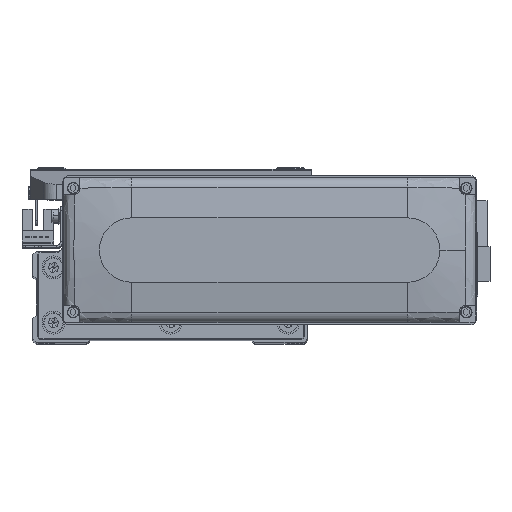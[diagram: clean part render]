
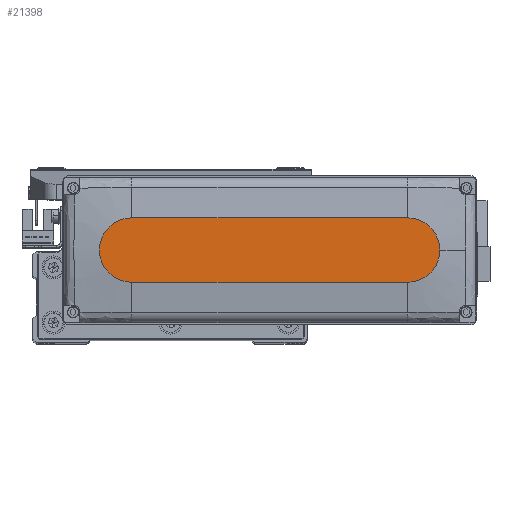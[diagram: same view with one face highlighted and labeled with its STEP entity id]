
A CAD part, top view. The second image highlights one B-rep face of the part: STEP entity #21398.
In plain terms, the highlighted planar face has unit normal (0, 0, 1).
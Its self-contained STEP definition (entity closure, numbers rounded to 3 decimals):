
#1620 = VECTOR ( 'NONE', #42670, 1000. ) ;
#1753 = ORIENTED_EDGE ( 'NONE', *, *, #46228, .T. ) ;
#1819 = CIRCLE ( 'NONE', #35370, 14. ) ;
#2004 = CARTESIAN_POINT ( 'NONE',  ( 74., 0., 28.5 ) ) ;
#2275 = EDGE_CURVE ( 'NONE', #24312, #2949, #1819, .T. ) ;
#2402 = VERTEX_POINT ( 'NONE', #18115 ) ;
#2949 = VERTEX_POINT ( 'NONE', #2004 ) ;
#5715 = CARTESIAN_POINT ( 'NONE',  ( 60., -14., 28.5 ) ) ;
#8342 = CIRCLE ( 'NONE', #36986, 14. ) ;
#10628 = CARTESIAN_POINT ( 'NONE',  ( -60., -14., 28.5 ) ) ;
#10875 = DIRECTION ( 'NONE',  ( 1., 0., 0. ) ) ;
#11189 = ORIENTED_EDGE ( 'NONE', *, *, #35209, .T. ) ;
#16842 = CARTESIAN_POINT ( 'NONE',  ( 60., 0., 28.5 ) ) ;
#17135 = ORIENTED_EDGE ( 'NONE', *, *, #18884, .T. ) ;
#17721 = VECTOR ( 'NONE', #10875, 1000. ) ;
#17875 = EDGE_CURVE ( 'NONE', #46809, #24312, #26786, .T. ) ;
#18115 = CARTESIAN_POINT ( 'NONE',  ( -60., 14., 28.5 ) ) ;
#18884 = EDGE_CURVE ( 'NONE', #2949, #26890, #49402, .T. ) ;
#21398 = ADVANCED_FACE ( 'NONE', ( #34456 ), #43157, .T. ) ;
#23432 = DIRECTION ( 'NONE',  ( 0., 0., 1. ) ) ;
#23685 = CARTESIAN_POINT ( 'NONE',  ( 0., 0., 28.5 ) ) ;
#24122 = CARTESIAN_POINT ( 'NONE',  ( -60., 14., 28.5 ) ) ;
#24312 = VERTEX_POINT ( 'NONE', #5715 ) ;
#25348 = EDGE_LOOP ( 'NONE', ( #11189, #1753, #36849, #36744, #17135 ) ) ;
#26299 = DIRECTION ( 'NONE',  ( 0., 0., 1. ) ) ;
#26786 = LINE ( 'NONE', #10628, #17721 ) ;
#26890 = VERTEX_POINT ( 'NONE', #38287 ) ;
#32081 = LINE ( 'NONE', #24122, #1620 ) ;
#32977 = DIRECTION ( 'NONE',  ( 0., 0., 1. ) ) ;
#33962 = DIRECTION ( 'NONE',  ( 1., 0., 0. ) ) ;
#34456 = FACE_OUTER_BOUND ( 'NONE', #25348, .T. ) ;
#35103 = AXIS2_PLACEMENT_3D ( 'NONE', #23685, #23432, #39314 ) ;
#35209 = EDGE_CURVE ( 'NONE', #26890, #2402, #32081, .T. ) ;
#35370 = AXIS2_PLACEMENT_3D ( 'NONE', #16842, #32977, #48602 ) ;
#36744 = ORIENTED_EDGE ( 'NONE', *, *, #2275, .T. ) ;
#36849 = ORIENTED_EDGE ( 'NONE', *, *, #17875, .T. ) ;
#36986 = AXIS2_PLACEMENT_3D ( 'NONE', #42165, #26299, #33962 ) ;
#37141 = DIRECTION ( 'NONE',  ( 0., 0., 1. ) ) ;
#38287 = CARTESIAN_POINT ( 'NONE',  ( 60., 14., 28.5 ) ) ;
#39279 = CARTESIAN_POINT ( 'NONE',  ( -60., -14., 28.5 ) ) ;
#39314 = DIRECTION ( 'NONE',  ( 1., 0., 0. ) ) ;
#39541 = DIRECTION ( 'NONE',  ( 1., 0., 0. ) ) ;
#41201 = AXIS2_PLACEMENT_3D ( 'NONE', #46977, #37141, #39541 ) ;
#42165 = CARTESIAN_POINT ( 'NONE',  ( -60., 0., 28.5 ) ) ;
#42670 = DIRECTION ( 'NONE',  ( -1., 0., 0. ) ) ;
#43157 = PLANE ( 'NONE',  #35103 ) ;
#46228 = EDGE_CURVE ( 'NONE', #2402, #46809, #8342, .T. ) ;
#46809 = VERTEX_POINT ( 'NONE', #39279 ) ;
#46977 = CARTESIAN_POINT ( 'NONE',  ( 60., 0., 28.5 ) ) ;
#48602 = DIRECTION ( 'NONE',  ( 1., 0., 0. ) ) ;
#49402 = CIRCLE ( 'NONE', #41201, 14. ) ;
